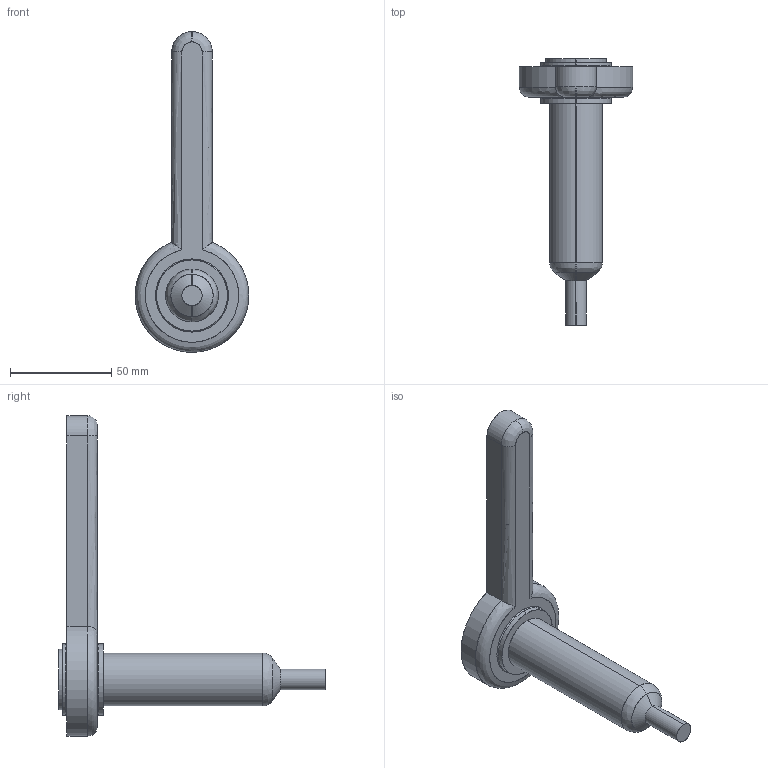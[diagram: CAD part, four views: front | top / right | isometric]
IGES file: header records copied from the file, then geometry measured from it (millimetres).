
Start section: SolidWorks IGES file using analytic representation for surfaces
Global section: file name: C:\Documents and Settings\ws-20\Desktop\TEM\Sede UGEP3152-S-A C-89 L-109 P-25.IGS; native system: SolidWorks 2012; preprocessor: SolidWorks 2012; author: ws-20; date: 120404.085458; units: millimetre
Bounding box: 56 x 131.23 x 158 mm (x, y, z)
Surface area: 21837.6 mm2 (no closed solid volume)
Topology: 0 solids, 0 shells, 34 faces, 754 edges, 754 vertices
Faces by surface type: revolution 21, bspline 13
